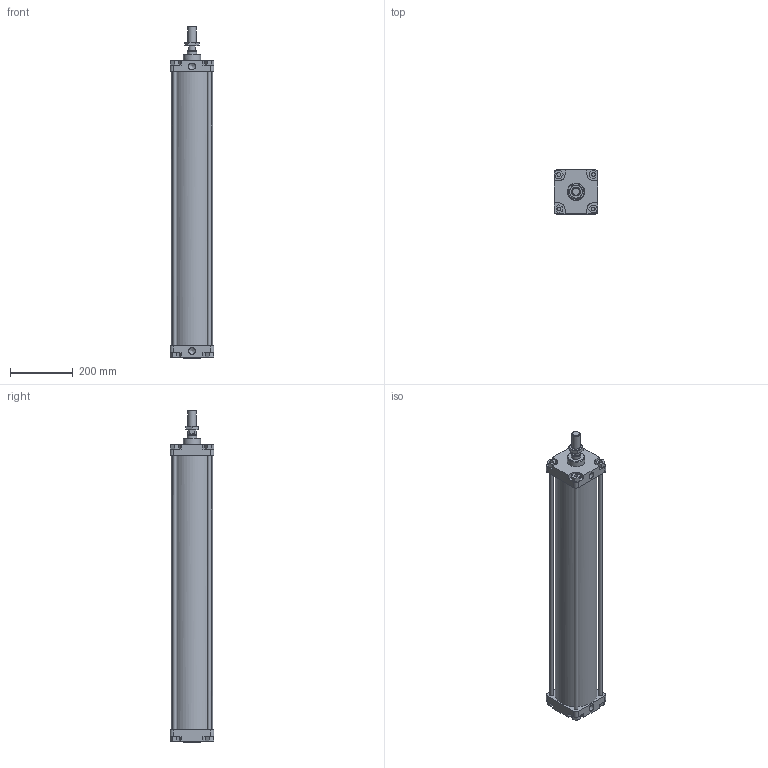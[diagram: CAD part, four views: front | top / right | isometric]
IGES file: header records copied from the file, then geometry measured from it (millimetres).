
Global section: file name: 1303_125_0800_01A; native system: Autodesk Inventor 2014; preprocessor: unknown; author: A. Manieri; date: 20161124.141637; units: millimetre
Bounding box: 140 x 140 x 1058 mm (x, y, z)
Volume: 4680015.2 mm3; surface area: 1135821.5 mm2
Topology: 9 solids, 9 shells, 175 faces, 440 edges, 295 vertices
Faces by surface type: bspline 175
